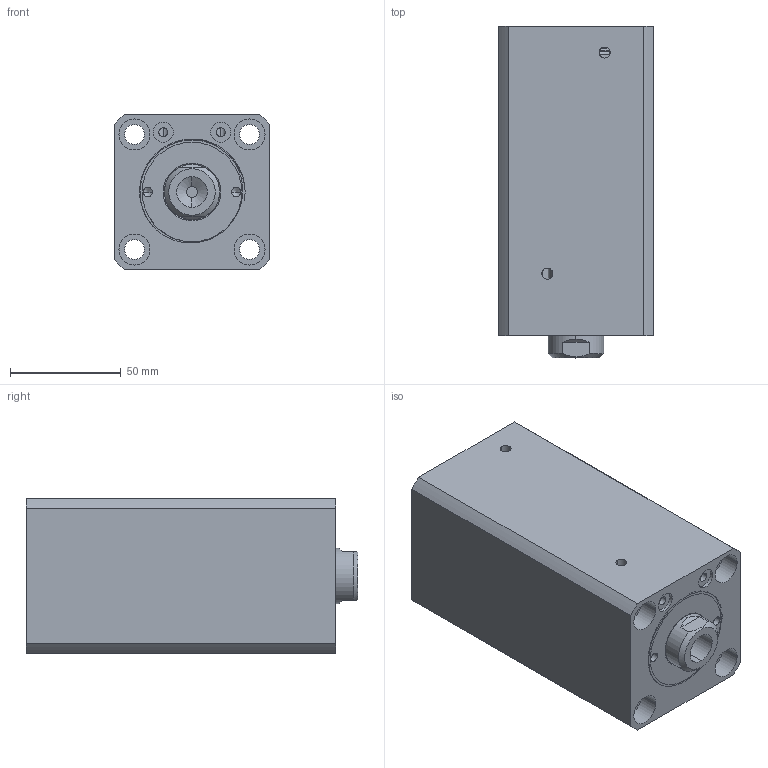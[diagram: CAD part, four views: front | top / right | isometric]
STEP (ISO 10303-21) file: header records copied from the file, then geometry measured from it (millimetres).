
FILE_DESCRIPTION (( 'STEP AP214' ), '1' );
FILE_NAME ('chtb-sdma40x85n_asm.STEP', '2018-06-06T07:04:15', ( 'Windows' ), ( 'Microsoft' ), 'SwSTEP 2.0', 'SolidWorks 2015', '' );
FILE_SCHEMA (( 'AUTOMOTIVE_DESIGN' ));
Length unit declared in the file: millimetre
Products named in the file (4): CHTB-SD40QG; CHTB-SDMA40X85NBT; CHTB-SD40X85NHSG; chtb-sdma40x85n_asm
Assembly tree (3 placements, depth 2):
  chtb-sdma40x85n_asm
    CHTB-SD40X85NHSG
    CHTB-SDMA40X85NBT
    CHTB-SD40QG
Bounding box: 70 x 150 x 70 mm (x, y, z)
Volume: 565244.7 mm3; surface area: 111285.1 mm2
Topology: 3 solids, 3 shells, 157 faces, 413 edges, 274 vertices
Faces by surface type: cylinder 84, plane 36, torus 14, bspline 14, cone 9
Entity records: 10139 total; most frequent: CARTESIAN_POINT 6157, ORIENTED_EDGE 814, DIRECTION 768, EDGE_CURVE 407, AXIS2_PLACEMENT_3D 326, VERTEX_POINT 274, EDGE_LOOP 193, CIRCLE 177
